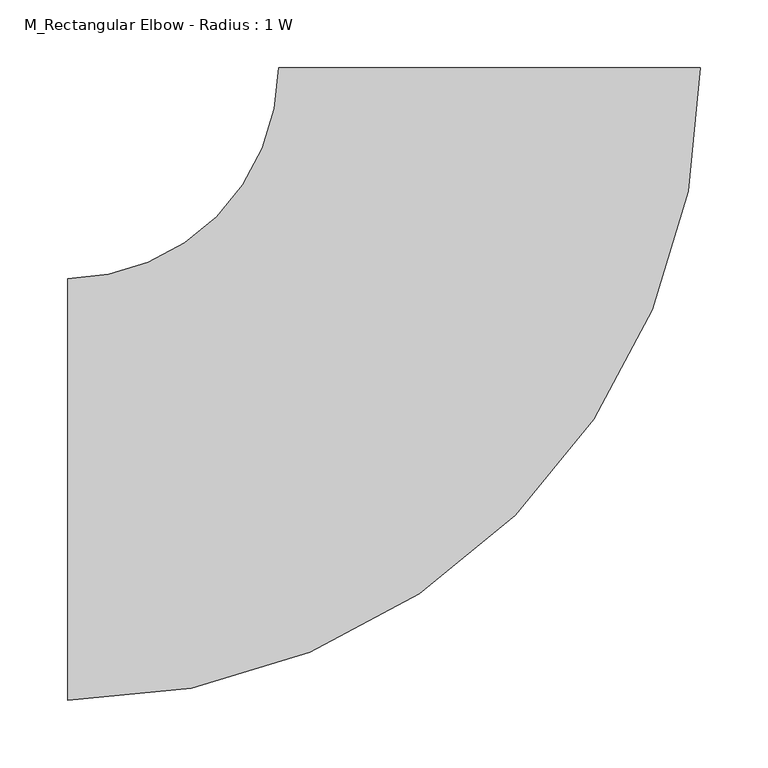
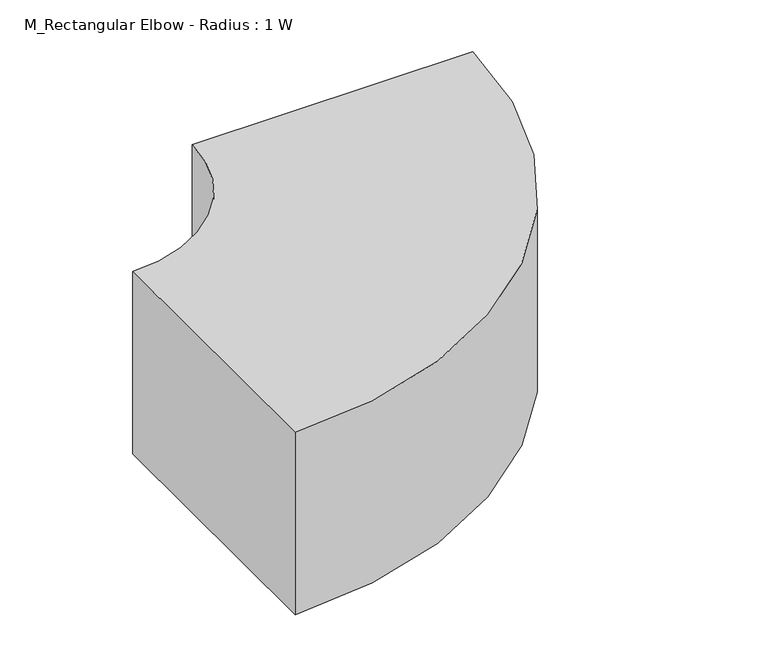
"""IFC4 building model written with IfcOpenShell, lengths in millimetres: duct fitting geometry, M_Rectangular Elbow - Radius : 1 W."""

from ifc_helpers import new_model, si_unit, point, frame, frame_2d, origin, place, context, project, spatial, polyline, circle_curve, trimmed, segment, composite_curve, outline, extrude, source, transform, mapped, element, save


def m_rectangular_elbow_radius_1_w_01ab3e9f(model_context):
    return source(origin(), model_context, "Body", "SweptSolid", [
        extrude(outline(composite_curve([segment(trimmed(circle_curve(frame_2d((-311.875, 311.875)), 467.8125), [point((155.9375, 311.875))], [point((-311.875, -155.9375))], False, "CARTESIAN"), True, "CONTINUOUS"), segment(polyline([(-311.875, -155.9375), (-311.875, 155.9375)]), True, "CONTINUOUS"), segment(trimmed(circle_curve(frame_2d((-311.875, 311.875)), 155.9375), [point((-311.875, 155.9375))], [point((-155.9375, 311.875))], True, "CARTESIAN"), True, "CONTINUOUS"), segment(polyline([(-155.9375, 311.875), (155.9375, 311.875)]), True, "CONTINUOUS")], self_intersect=False)), frame((0.0, 0.0, -107.15), z_axis=(0.0, 0.0, 1.0), x_axis=(1.0, 0.0, 0.0)), (0.0, 0.0, 1.0), 214.3),
    ])


if __name__ == "__main__":
    model = new_model("IFC4")
    model_context = context("Model", 3, world=origin())
    ifc_project = project(units=[si_unit("LENGTHUNIT", "METRE", prefix="MILLI")], contexts=[model_context])
    site = spatial("IfcSite", under=ifc_project)
    building = spatial("IfcBuilding", under=site)
    placement = place(None, origin())
    m_rectangular_elbow_radius_1_w_shape = m_rectangular_elbow_radius_1_w_01ab3e9f(model_context)
    element("IfcDuctFitting", 1, ObjectType="M_Rectangular Elbow - Radius : 1 W", at=placement, inside=building, context=model_context, shape_type="MappedRepresentation", body=[
        mapped(m_rectangular_elbow_radius_1_w_shape, transform((0.0, 0.0, 0.0), x_axis=(1.0, 0.0, 0.0), y_axis=(0.0, 1.0, 0.0), z_axis=(0.0, 0.0, 1.0))),
    ])
    save(model, "model.ifc")
